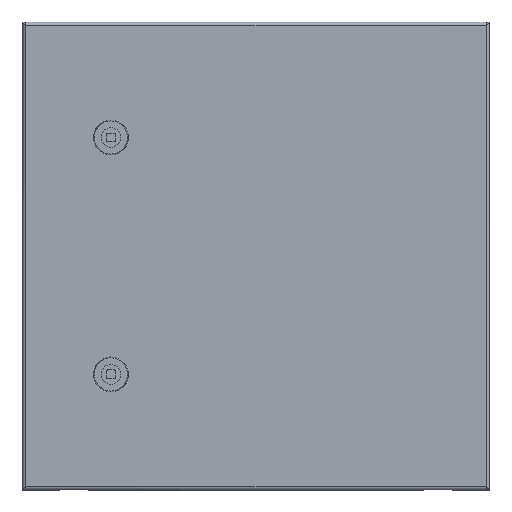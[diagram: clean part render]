
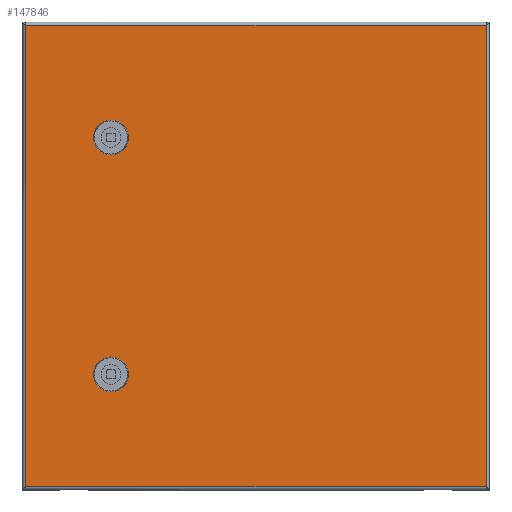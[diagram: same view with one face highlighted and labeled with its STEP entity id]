
A CAD part, top view. The second image highlights one B-rep face of the part: STEP entity #147846.
In plain terms, the highlighted planar face has unit normal (0, 0, 1).
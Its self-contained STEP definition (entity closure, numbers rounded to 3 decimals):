
#146991=CARTESIAN_POINT(' ',(2.8,0.8,0.));
#146996=DIRECTION(' ',(1.,0.,0.));
#147001=VECTOR(' ',#146996,1.);
#147006=LINE('',#146991,#147001);
#147011=CARTESIAN_POINT(' ',(2.8,0.8,0.));
#147012=VERTEX_POINT(' ',#147011);
#147016=CARTESIAN_POINT(' ',(391.2,0.8,0.));
#147017=VERTEX_POINT(' ',#147016);
#147021=EDGE_CURVE(' ',#147012,#147017,#147006,.T.);
#147706=DIRECTION(' ',(-0.,-0.,1.));
#147711=CARTESIAN_POINT(' ',(391.2,0.8,0.));
#147716=DIRECTION(' ',(0.,1.,0.));
#147721=AXIS2_PLACEMENT_3D(' ',#147711,#147706,#147716);
#147726=PLANE('NONE',#147721);
#147731=ORIENTED_EDGE(' ',*,*,#147021,.T.);
#147736=CARTESIAN_POINT(' ',(391.2,390.2,0.));
#147741=DIRECTION(' ',(0.,-1.,0.));
#147746=VECTOR(' ',#147741,1.);
#147751=LINE('',#147736,#147746);
#147756=CARTESIAN_POINT(' ',(391.2,390.2,0.));
#147757=VERTEX_POINT(' ',#147756);
#147761=EDGE_CURVE(' ',#147757,#147017,#147751,.T.);
#147766=ORIENTED_EDGE(' ',*,*,#147761,.F.);
#147771=CARTESIAN_POINT(' ',(391.2,390.2,0.));
#147776=DIRECTION(' ',(-1.,0.,0.));
#147781=VECTOR(' ',#147776,1.);
#147786=LINE('',#147771,#147781);
#147791=CARTESIAN_POINT(' ',(2.8,390.2,0.));
#147792=VERTEX_POINT(' ',#147791);
#147796=EDGE_CURVE(' ',#147757,#147792,#147786,.T.);
#147801=ORIENTED_EDGE(' ',*,*,#147796,.T.);
#147806=CARTESIAN_POINT(' ',(2.8,390.2,0.));
#147811=DIRECTION(' ',(0.,-1.,0.));
#147816=VECTOR(' ',#147811,1.);
#147821=LINE('',#147806,#147816);
#147826=EDGE_CURVE(' ',#147792,#147012,#147821,.T.);
#147831=ORIENTED_EDGE(' ',*,*,#147826,.T.);
#147836=EDGE_LOOP(' ',(#147731,#147766,#147801,#147831));
#147841=FACE_OUTER_BOUND(' ',#147836,.T.);
#147846=ADVANCED_FACE('NONE',(#147841),#147726,.T.);
